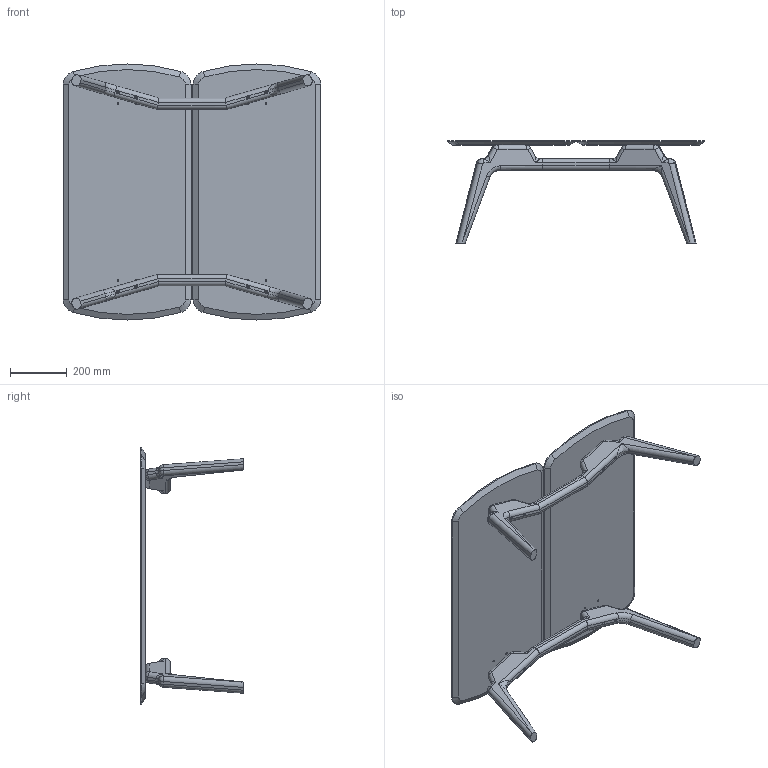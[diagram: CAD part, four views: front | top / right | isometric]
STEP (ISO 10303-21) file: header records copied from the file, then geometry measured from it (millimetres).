
FILE_DESCRIPTION (( 'STEP AP214' ), '1' );
FILE_NAME ('MESA_MIXTA_L_DUO.STEP', '2019-08-02T09:34:08', ( '' ), ( '' ), 'SwSTEP 2.0', 'SolidWorks 2016', '' );
FILE_SCHEMA (( 'AUTOMOTIVE_DESIGN' ));
Length unit declared in the file: millimetre
Products named in the file (5): TRAVESAÑO_1_SOBRE; PATAS_MADERA_ALTURA DOBLE_DIAGONAL_1; NUEVO_SOBRE_CHAPADO_RECTO_90_MESA_MODULAR_2_SOBRES; MESA_MIXTA_L_DUO; PATAS_MADERA_ALTURA DOBLE_DIAGONAL_2_MESA_MODULAR_2_SOBRES
Assembly tree (8 placements, depth 2):
  MESA_MIXTA_L_DUO
    TRAVESAÑO_1_SOBRE  x2
    PATAS_MADERA_ALTURA DOBLE_DIAGONAL_1  x2
    PATAS_MADERA_ALTURA DOBLE_DIAGONAL_2_MESA_MODULAR_2_SOBRES  x2
    NUEVO_SOBRE_CHAPADO_RECTO_90_MESA_MODULAR_2_SOBRES  x2
Bounding box: 906 x 360 x 900 mm (x, y, z)
Volume: 16010700.1 mm3; surface area: 2047570.3 mm2
Topology: 8 solids, 8 shells, 336 faces, 800 edges, 476 vertices
Faces by surface type: cylinder 172, plane 104, torus 28, bspline 20, cone 12
Entity records: 5643 total; most frequent: CARTESIAN_POINT 1593, DIRECTION 824, ORIENTED_EDGE 780, EDGE_CURVE 390, AXIS2_PLACEMENT_3D 325, VERTEX_POINT 238, EDGE_LOOP 184, LINE 174
